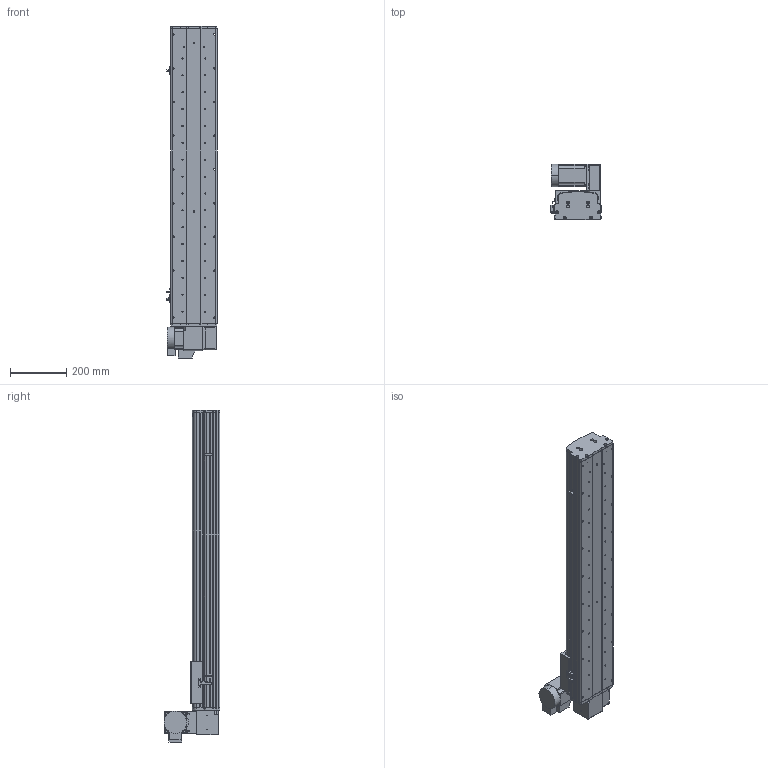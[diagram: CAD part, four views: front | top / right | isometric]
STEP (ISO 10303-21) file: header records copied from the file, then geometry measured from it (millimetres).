
FILE_DESCRIPTION (( 'STEP AP214' ), '1' );
FILE_NAME ('KSD165B-S800-MRU-CM.STEP', '2017-10-17T02:31:58', ( '微软用户' ), ( '微软中国' ), 'SwSTEP 2.0', 'SolidWorks 2014', '' );
FILE_SCHEMA (( 'AUTOMOTIVE_DESIGN' ));
Length unit declared in the file: millimetre
Products named in the file (17): 130宽模组马达安装板连板上下折丝杆同步带; 130宽模组保护罩上下左右折-同步带; HTPA26S5M250-A-H8 750W萇儂蚚; HTPA26S5M250-A-H8 400W萇儂蚚 ; KSD165模组-同步带防尘盖1-800行程-最新版; KSD165模组同步带底板-800行程-最新; 拸秶雄ん750W侜督萇儂; 165宽马达安装板同步带右; U倰嫖萇假蚾璃; U倰嫖萇EEㄜSX672; 覜茼え68遵圉猾敕; KSD165模组-同步带-防撞垫2; KSD165模组同步带-防撞垫1; KSD165耀郪-ヶ傷啣1-肮祭湍; KSD165模组-后端板1-同步带; KSD165模组-同步带滑动座-最新版; KSD165B-S800-MRU-CM
Assembly tree (20 placements, depth 2):
  KSD165B-S800-MRU-CM
    KSD165模组-同步带滑动座-最新版
    KSD165模组-后端板1-同步带
    KSD165耀郪-ヶ傷啣1-肮祭湍
    KSD165模组同步带-防撞垫1
    KSD165模组-同步带-防撞垫2
    覜茼え68遵圉猾敕
    U倰嫖萇EEㄜSX672  x3
    U倰嫖萇假蚾璃  x3
    165宽马达安装板同步带右
    拸秶雄ん750W侜督萇儂
    KSD165模组同步带底板-800行程-最新
    KSD165模组-同步带防尘盖1-800行程-最新版
    HTPA26S5M250-A-H8 400W萇儂蚚 
    HTPA26S5M250-A-H8 750W萇儂蚚
    130宽模组保护罩上下左右折-同步带
    130宽模组马达安装板连板上下折丝杆同步带
Bounding box: 178.7 x 198 x 1180.5 mm (x, y, z)
Volume: 7015930.3 mm3; surface area: 1627309.2 mm2
Topology: 21 solids, 21 shells, 1939 faces, 5472 edges, 3572 vertices
Faces by surface type: cylinder 1243, plane 584, cone 112
Entity records: 62772 total; most frequent: CARTESIAN_POINT 12868, DIRECTION 10332, ORIENTED_EDGE 9604, EDGE_CURVE 4802, AXIS2_PLACEMENT_3D 4050, VERTEX_POINT 3164, CIRCLE 2308, LINE 2232
